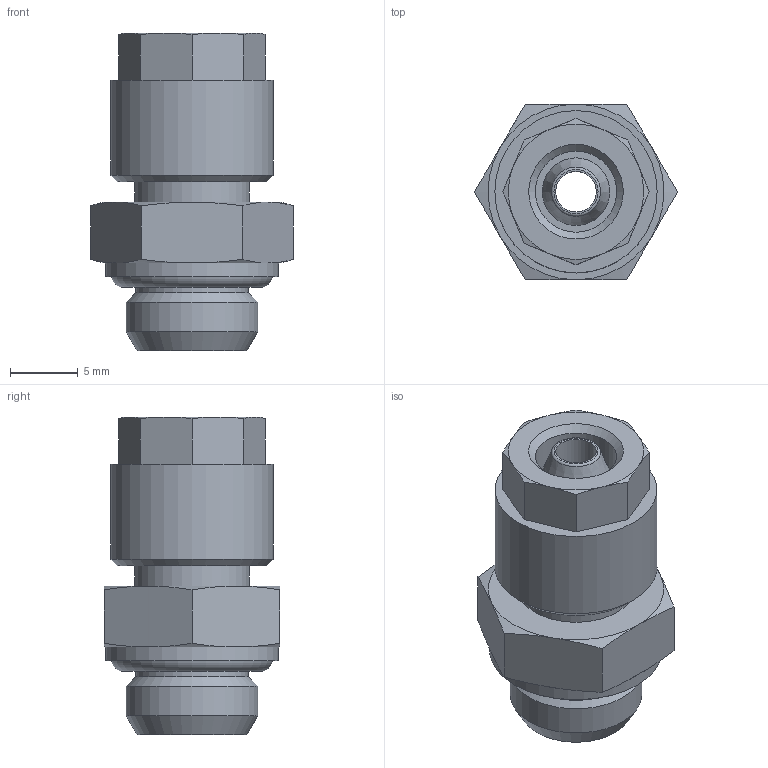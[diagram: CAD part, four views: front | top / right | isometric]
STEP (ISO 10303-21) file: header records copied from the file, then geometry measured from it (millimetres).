
FILE_DESCRIPTION(/* description */ (''),/* implementation_level */ '2;1');
FILE_NAME(/* name */ '10209_301Z_OR_64_G18_06.03.17',/* time_stamp */ '2017-03-06T09:45:34+01:00',/* author */ (''),/* organization */ (''),/* preprocessor_version */ 'ST-DEVELOPER v16.5',/* originating_system */ 'HiCAD 2016 2102.1 Build 498',/* authorisation */ '');
FILE_SCHEMA (('AUTOMOTIVE_DESIGN { 1 0 10303 214 1 1 1 1 }'));
Length unit declared in the file: millimetre
Products named in the file (4): Root; ROTATIONSTEIL_0; OR 7.2X1.9; 17005
Assembly tree (3 placements, depth 3):
  Root
    ROTATIONSTEIL_0
      OR 7.2X1.9
      17005
Bounding box: 15.01 x 13 x 23.5 mm (x, y, z)
Volume: 2016.9 mm3; surface area: 2296.6 mm2
Topology: 3 solids, 3 shells, 73 faces, 168 edges, 106 vertices
Faces by surface type: cone 32, plane 25, cylinder 11, torus 5
Full cylindrical faces by diameter (mm): 3 x1, 4.5 x1, 5.5 x1, 6 x1, 8.3 x1, 8.5 x1, 8.773 x1, 9.728 x1, 10 x1, 12 x1, 12.8 x1
Entity records: 3268 total; most frequent: DIRECTION 396, CARTESIAN_POINT 305, PRESENTATION_STYLE_ASSIGNMENT 263, COLOUR_RGB 263, DRAUGHTING_PRE_DEFINED_CURVE_FONT 260, CURVE_STYLE 260, OVER_RIDING_STYLED_ITEM 260, ORIENTED_EDGE 260
